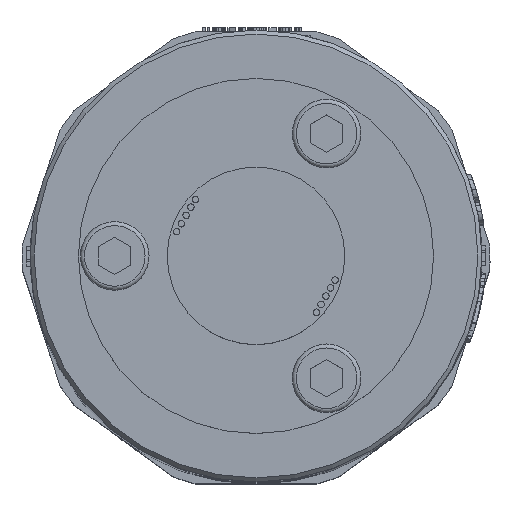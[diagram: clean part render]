
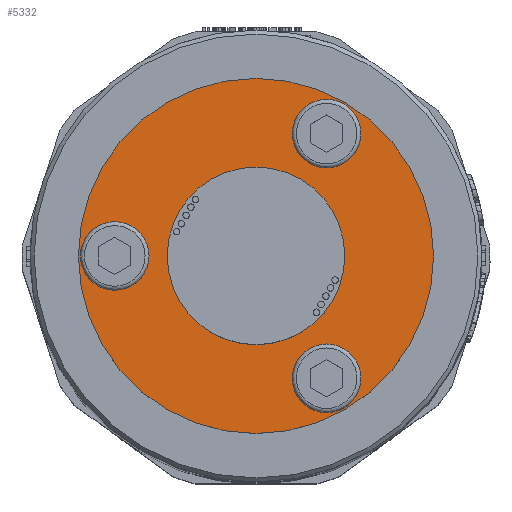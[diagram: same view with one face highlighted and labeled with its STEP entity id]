
A CAD part, top view. The second image highlights one B-rep face of the part: STEP entity #5332.
In plain terms, the highlighted planar face has unit normal (0, 0, 1).
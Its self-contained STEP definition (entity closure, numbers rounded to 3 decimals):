
#672=FACE_BOUND('',#8643,.T.);
#673=FACE_BOUND('',#8644,.T.);
#674=FACE_BOUND('',#8645,.T.);
#675=FACE_BOUND('',#8646,.T.);
#676=FACE_BOUND('',#8647,.T.);
#1089=CIRCLE('',#24508,4.25);
#1091=CIRCLE('',#24512,4.25);
#1094=CIRCLE('',#24525,4.25);
#1118=CIRCLE('',#24582,11.);
#1119=CIRCLE('',#24584,22.);
#5332=ADVANCED_FACE('',(#672,#673,#674,#675,#676),#6375,.T.);
#6375=PLANE('',#24585);
#8643=EDGE_LOOP('',(#12762));
#8644=EDGE_LOOP('',(#12763));
#8645=EDGE_LOOP('',(#12764));
#8646=EDGE_LOOP('',(#12765));
#8647=EDGE_LOOP('',(#12766));
#12762=ORIENTED_EDGE('',*,*,#20312,.F.);
#12763=ORIENTED_EDGE('',*,*,#20314,.F.);
#12764=ORIENTED_EDGE('',*,*,#20335,.F.);
#12765=ORIENTED_EDGE('',*,*,#20378,.T.);
#12766=ORIENTED_EDGE('',*,*,#20377,.F.);
#17598=VERTEX_POINT('',#38181);
#17600=VERTEX_POINT('',#38187);
#17615=VERTEX_POINT('',#38233);
#17651=VERTEX_POINT('',#38344);
#17652=VERTEX_POINT('',#38347);
#20312=EDGE_CURVE('',#17598,#17598,#1089,.T.);
#20314=EDGE_CURVE('',#17600,#17600,#1091,.T.);
#20335=EDGE_CURVE('',#17615,#17615,#1094,.T.);
#20377=EDGE_CURVE('',#17651,#17651,#1118,.T.);
#20378=EDGE_CURVE('',#17652,#17652,#1119,.T.);
#24508=AXIS2_PLACEMENT_3D('',#38180,#27128,#27129);
#24512=AXIS2_PLACEMENT_3D('',#38186,#27136,#27137);
#24525=AXIS2_PLACEMENT_3D('',#38232,#27180,#27181);
#24582=AXIS2_PLACEMENT_3D('',#38343,#27312,#27313);
#24584=AXIS2_PLACEMENT_3D('',#38346,#27316,#27317);
#24585=AXIS2_PLACEMENT_3D('',#38348,#27318,#27319);
#27128=DIRECTION('',(0.,0.,1.));
#27129=DIRECTION('',(-0.866,0.5,0.));
#27136=DIRECTION('',(0.,0.,1.));
#27137=DIRECTION('',(-0.866,0.5,0.));
#27180=DIRECTION('',(0.,0.,1.));
#27181=DIRECTION('',(-0.866,0.5,0.));
#27312=DIRECTION('',(0.,0.,1.));
#27313=DIRECTION('',(0.866,-0.5,0.));
#27316=DIRECTION('',(0.,0.,1.));
#27317=DIRECTION('',(0.866,-0.5,0.));
#27318=DIRECTION('',(0.,0.,1.));
#27319=DIRECTION('',(-0.866,0.5,0.));
#38180=CARTESIAN_POINT('',(8.75,-15.155,152.5));
#38181=CARTESIAN_POINT('',(5.069,-13.03,152.5));
#38186=CARTESIAN_POINT('',(8.75,15.155,152.5));
#38187=CARTESIAN_POINT('',(5.069,17.28,152.5));
#38232=CARTESIAN_POINT('',(-17.5,0.,152.5));
#38233=CARTESIAN_POINT('',(-21.181,2.125,152.5));
#38343=CARTESIAN_POINT('',(0.,0.,152.5));
#38344=CARTESIAN_POINT('',(9.526,-5.5,152.5));
#38346=CARTESIAN_POINT('',(0.,0.,152.5));
#38347=CARTESIAN_POINT('',(19.053,-11.,152.5));
#38348=CARTESIAN_POINT('',(0.,0.,152.5));
